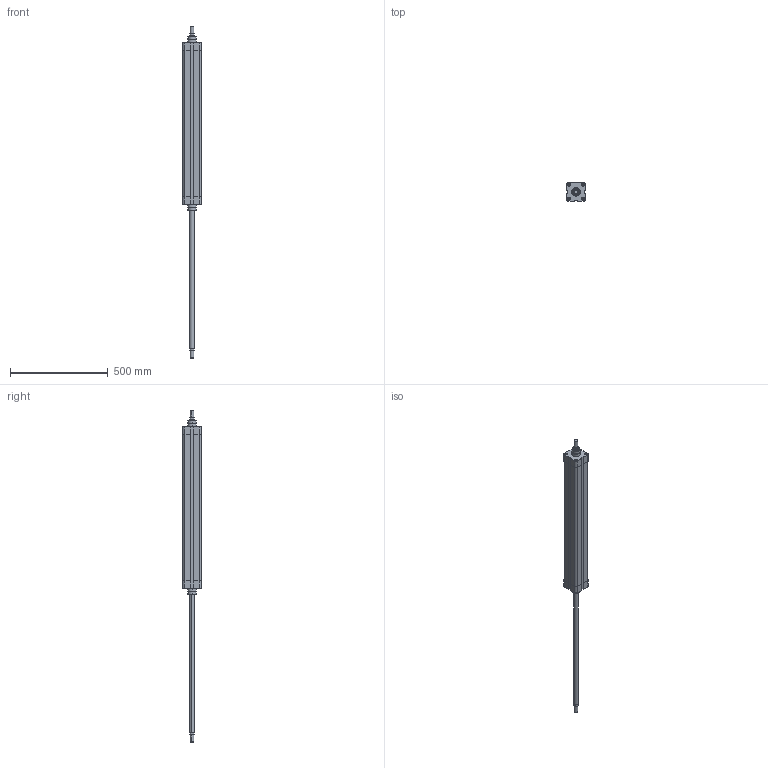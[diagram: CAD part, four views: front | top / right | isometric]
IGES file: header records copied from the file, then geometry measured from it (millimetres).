
Global section: file name: No Iges File Name specified; native system: AutoDesk Inventor R6.1; preprocessor: AutoDesk Inventor Iges Exporter R6.1; author: No Author specified; organization: No Organization specified; date: 20040107.171521; units: millimetre
Bounding box: 95.5 x 95.5 x 1700 mm (x, y, z)
Volume: 7714168.6 mm3; surface area: 580259.6 mm2
Topology: 2 solids, 2 shells, 236 faces, 564 edges, 356 vertices
Faces by surface type: plane 80, bspline 62, cylinder 42, revolution 32, cone 16, torus 4
